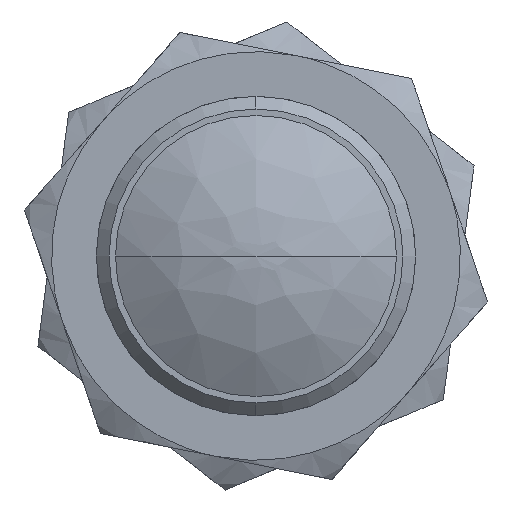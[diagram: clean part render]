
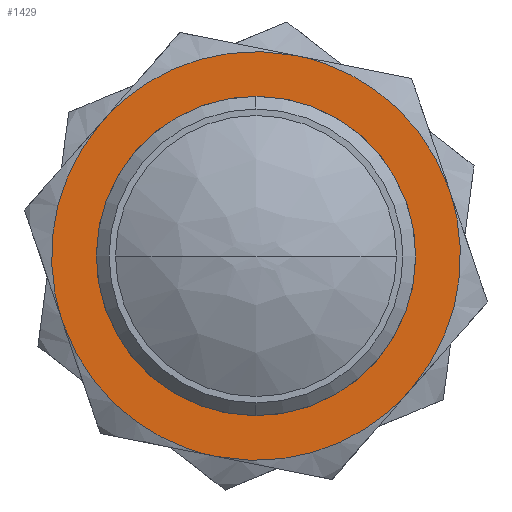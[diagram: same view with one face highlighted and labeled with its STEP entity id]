
A CAD part, left-side view. The second image highlights one B-rep face of the part: STEP entity #1429.
In plain terms, the highlighted planar face has unit normal (-1, 0, 0) as drawn and (1, 0, 0) by its records, which use the part's own axes.
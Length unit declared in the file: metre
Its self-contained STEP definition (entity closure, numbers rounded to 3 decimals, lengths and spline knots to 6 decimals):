
#71 =( BOUNDED_CURVE ( )  B_SPLINE_CURVE ( 3, ( #1321, #1616, #1624, #1637 ),
 .UNSPECIFIED., .F., .T. ) 
 B_SPLINE_CURVE_WITH_KNOTS ( ( 4, 4 ),
 ( 0., 0.016688 ),
 .UNSPECIFIED. ) 
 CURVE ( )  GEOMETRIC_REPRESENTATION_ITEM ( )  RATIONAL_B_SPLINE_CURVE ( ( 0.981, 0.893, 0.893, 0.981 ) ) 
 REPRESENTATION_ITEM ( '' )  );
#113 = EDGE_CURVE ( 'NONE', #520, #909, #1456, .T. ) ;
#168 = ORIENTED_EDGE ( 'NONE', *, *, #350, .T. ) ;
#220 = CARTESIAN_POINT ( 'NONE',  ( 0.005, 0., 0.016 ) ) ;
#234 = CARTESIAN_POINT ( 'NONE',  ( 0.005, -0.005856, -0.016 ) ) ;
#256 = CARTESIAN_POINT ( 'NONE',  ( 0.005, 0., 0. ) ) ;
#265 = CARTESIAN_POINT ( 'NONE',  ( 0.005, -0.013856, -0.008 ) ) ;
#279 = EDGE_CURVE ( 'NONE', #1556, #457, #1845, .T. ) ;
#339 = EDGE_CURVE ( 'NONE', #889, #1556, #71, .T. ) ;
#350 = EDGE_CURVE ( 'NONE', #457, #968, #646, .T. ) ;
#387 = CARTESIAN_POINT ( 'NONE',  ( 0.005, 0.013856, 0.008 ) ) ;
#397 = CARTESIAN_POINT ( 'NONE',  ( 0.005, 0., -0.016 ) ) ;
#406 = CARTESIAN_POINT ( 'NONE',  ( 0.005, 0.005856, -0.016 ) ) ;
#421 = PLANE ( 'NONE',  #1102 ) ;
#423 = DIRECTION ( 'NONE',  ( 0., 0., -1. ) ) ;
#454 = CARTESIAN_POINT ( 'NONE',  ( 0.005, -0.013856, -0.008 ) ) ;
#457 = VERTEX_POINT ( 'NONE', #454 ) ;
#492 = VERTEX_POINT ( 'NONE', #1529 ) ;
#517 = ORIENTED_EDGE ( 'NONE', *, *, #113, .F. ) ;
#518 = EDGE_LOOP ( 'NONE', ( #517, #1743 ) ) ;
#520 = VERTEX_POINT ( 'NONE', #1406 ) ;
#552 =( BOUNDED_CURVE ( )  B_SPLINE_CURVE ( 3, ( #1701, #621, #1872, #940 ),
 .UNSPECIFIED., .F., .T. ) 
 B_SPLINE_CURVE_WITH_KNOTS ( ( 4, 4 ),
 ( 0., 0.016688 ),
 .UNSPECIFIED. ) 
 CURVE ( )  GEOMETRIC_REPRESENTATION_ITEM ( )  RATIONAL_B_SPLINE_CURVE ( ( 0.981, 0.894, 0.894, 0.983 ) ) 
 REPRESENTATION_ITEM ( '' )  );
#594 = CARTESIAN_POINT ( 'NONE',  ( 0.005, 0., 0. ) ) ;
#621 = CARTESIAN_POINT ( 'NONE',  ( 0.005, 0.010927, 0.013073 ) ) ;
#646 =( BOUNDED_CURVE ( )  B_SPLINE_CURVE ( 3, ( #1728, #1566, #234, #397 ),
 .UNSPECIFIED., .F., .F. ) 
 B_SPLINE_CURVE_WITH_KNOTS ( ( 4, 4 ),
 ( 0., 0.016688 ),
 .UNSPECIFIED. ) 
 CURVE ( )  GEOMETRIC_REPRESENTATION_ITEM ( )  RATIONAL_B_SPLINE_CURVE ( ( 0.981, 0.893, 0.893, 0.981 ) ) 
 REPRESENTATION_ITEM ( '' )  );
#658 = DIRECTION ( 'NONE',  ( 1., 0., 0. ) ) ;
#685 = ORIENTED_EDGE ( 'NONE', *, *, #1702, .T. ) ;
#712 = CARTESIAN_POINT ( 'NONE',  ( 0.005, 0.013856, -0.008 ) ) ;
#742 = DIRECTION ( 'NONE',  ( 1., 0., 0. ) ) ;
#750 = DIRECTION ( 'NONE',  ( 0., 0., -1. ) ) ;
#814 = EDGE_LOOP ( 'NONE', ( #1629, #1699, #168, #685, #1405, #1970 ) ) ;
#849 = CARTESIAN_POINT ( 'NONE',  ( 0.005, 0.013856, 0.008 ) ) ;
#889 = VERTEX_POINT ( 'NONE', #220 ) ;
#909 = VERTEX_POINT ( 'NONE', #1457 ) ;
#924 = CARTESIAN_POINT ( 'NONE',  ( 0.005, -0.016785, 0.002928 ) ) ;
#940 = CARTESIAN_POINT ( 'NONE',  ( 0.005, 0., 0.016 ) ) ;
#968 = VERTEX_POINT ( 'NONE', #2003 ) ;
#1005 = CARTESIAN_POINT ( 'NONE',  ( 0.005, 0.016785, -0.002928 ) ) ;
#1102 = AXIS2_PLACEMENT_3D ( 'NONE', #1194, #658, #1744 ) ;
#1108 = FACE_OUTER_BOUND ( 'NONE', #814, .T. ) ;
#1160 = CARTESIAN_POINT ( 'NONE',  ( 0.005, -0.013856, 0.008 ) ) ;
#1161 = CARTESIAN_POINT ( 'NONE',  ( 0.005, 0.013856, -0.008 ) ) ;
#1174 =( BOUNDED_CURVE ( )  B_SPLINE_CURVE ( 3, ( #1161, #1005, #1313, #387 ),
 .UNSPECIFIED., .F., .T. ) 
 B_SPLINE_CURVE_WITH_KNOTS ( ( 4, 4 ),
 ( 0., 0.016688 ),
 .UNSPECIFIED. ) 
 CURVE ( )  GEOMETRIC_REPRESENTATION_ITEM ( )  RATIONAL_B_SPLINE_CURVE ( ( 0.981, 0.893, 0.893, 0.981 ) ) 
 REPRESENTATION_ITEM ( '' )  );
#1194 = CARTESIAN_POINT ( 'NONE',  ( 0.005, -0.016192, 0.016192 ) ) ;
#1313 = CARTESIAN_POINT ( 'NONE',  ( 0.005, 0.016785, 0.002928 ) ) ;
#1321 = CARTESIAN_POINT ( 'NONE',  ( 0.005, 0., 0.016 ) ) ;
#1339 = VERTEX_POINT ( 'NONE', #849 ) ;
#1340 = DIRECTION ( 'NONE',  ( 1., 0., 0. ) ) ;
#1405 = ORIENTED_EDGE ( 'NONE', *, *, #1881, .T. ) ;
#1406 = CARTESIAN_POINT ( 'NONE',  ( 0.005, 0., -0.0125 ) ) ;
#1429 = ADVANCED_FACE ( 'NONE', ( #1450, #1108 ), #421, .T. ) ;
#1450 = FACE_BOUND ( 'NONE', #518, .T. ) ;
#1456 = CIRCLE ( 'NONE', #1896, 0.0125 ) ;
#1457 = CARTESIAN_POINT ( 'NONE',  ( 0.005, 0., 0.0125 ) ) ;
#1471 = CARTESIAN_POINT ( 'NONE',  ( 0.005, 0., -0.016 ) ) ;
#1529 = CARTESIAN_POINT ( 'NONE',  ( 0.005, 0.013856, -0.008 ) ) ;
#1556 = VERTEX_POINT ( 'NONE', #1160 ) ;
#1566 = CARTESIAN_POINT ( 'NONE',  ( 0.005, -0.010928, -0.013072 ) ) ;
#1597 = CARTESIAN_POINT ( 'NONE',  ( 0.005, -0.013856, 0.008 ) ) ;
#1616 = CARTESIAN_POINT ( 'NONE',  ( 0.005, -0.005856, 0.016 ) ) ;
#1624 = CARTESIAN_POINT ( 'NONE',  ( 0.005, -0.010928, 0.013072 ) ) ;
#1629 = ORIENTED_EDGE ( 'NONE', *, *, #339, .T. ) ;
#1633 = CARTESIAN_POINT ( 'NONE',  ( 0.005, 0.010928, -0.013072 ) ) ;
#1637 = CARTESIAN_POINT ( 'NONE',  ( 0.005, -0.013856, 0.008 ) ) ;
#1672 =( BOUNDED_CURVE ( )  B_SPLINE_CURVE ( 3, ( #1471, #406, #1633, #712 ),
 .UNSPECIFIED., .F., .T. ) 
 B_SPLINE_CURVE_WITH_KNOTS ( ( 4, 4 ),
 ( 0., 0.016688 ),
 .UNSPECIFIED. ) 
 CURVE ( )  GEOMETRIC_REPRESENTATION_ITEM ( )  RATIONAL_B_SPLINE_CURVE ( ( 0.981, 0.893, 0.893, 0.981 ) ) 
 REPRESENTATION_ITEM ( '' )  );
#1699 = ORIENTED_EDGE ( 'NONE', *, *, #279, .T. ) ;
#1701 = CARTESIAN_POINT ( 'NONE',  ( 0.005, 0.013856, 0.008 ) ) ;
#1702 = EDGE_CURVE ( 'NONE', #968, #492, #1672, .T. ) ;
#1728 = CARTESIAN_POINT ( 'NONE',  ( 0.005, -0.013856, -0.008 ) ) ;
#1729 = AXIS2_PLACEMENT_3D ( 'NONE', #256, #1340, #423 ) ;
#1743 = ORIENTED_EDGE ( 'NONE', *, *, #1950, .F. ) ;
#1744 = DIRECTION ( 'NONE',  ( 0., 0., -1. ) ) ;
#1754 = CIRCLE ( 'NONE', #1729, 0.0125 ) ;
#1810 = EDGE_CURVE ( 'NONE', #1339, #889, #552, .T. ) ;
#1845 =( BOUNDED_CURVE ( )  B_SPLINE_CURVE ( 3, ( #1597, #924, #1988, #265 ),
 .UNSPECIFIED., .F., .T. ) 
 B_SPLINE_CURVE_WITH_KNOTS ( ( 4, 4 ),
 ( 0., 0.016688 ),
 .UNSPECIFIED. ) 
 CURVE ( )  GEOMETRIC_REPRESENTATION_ITEM ( )  RATIONAL_B_SPLINE_CURVE ( ( 0.981, 0.893, 0.893, 0.981 ) ) 
 REPRESENTATION_ITEM ( '' )  );
#1872 = CARTESIAN_POINT ( 'NONE',  ( 0.005, 0.005855, 0.016 ) ) ;
#1881 = EDGE_CURVE ( 'NONE', #492, #1339, #1174, .T. ) ;
#1896 = AXIS2_PLACEMENT_3D ( 'NONE', #594, #742, #750 ) ;
#1950 = EDGE_CURVE ( 'NONE', #909, #520, #1754, .T. ) ;
#1970 = ORIENTED_EDGE ( 'NONE', *, *, #1810, .T. ) ;
#1988 = CARTESIAN_POINT ( 'NONE',  ( 0.005, -0.016785, -0.002928 ) ) ;
#2003 = CARTESIAN_POINT ( 'NONE',  ( 0.005, 0., -0.016 ) ) ;
